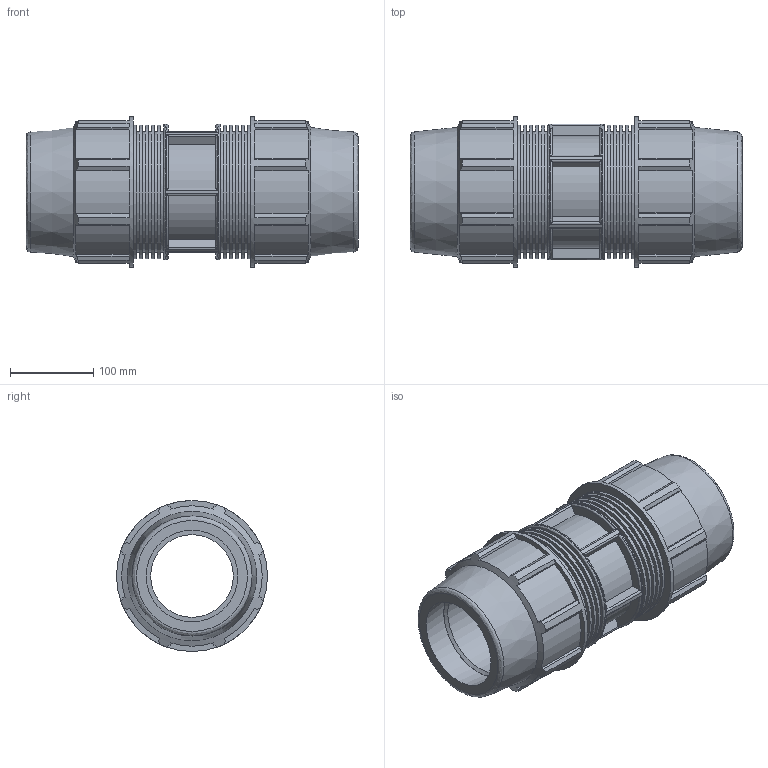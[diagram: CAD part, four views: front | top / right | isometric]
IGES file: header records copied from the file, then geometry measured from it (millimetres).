
Global section: file name: 870100110_180100110_840106110.ipt; native system: Autodesk Inventor 2015; preprocessor: unknown; author: KIM; date: 20180325.201119; units: millimetre
Bounding box: 398 x 181 x 181 mm (x, y, z)
Volume: 3885528.6 mm3; surface area: 471366.3 mm2
Topology: 1 solids, 1 shells, 216 faces, 561 edges, 378 vertices
Faces by surface type: plane 132, cylinder 57, revolution 23, cone 4
Full cylindrical faces by diameter (mm): 144.8 x10, 159.642 x10, 162.9 x1, 181 x2
